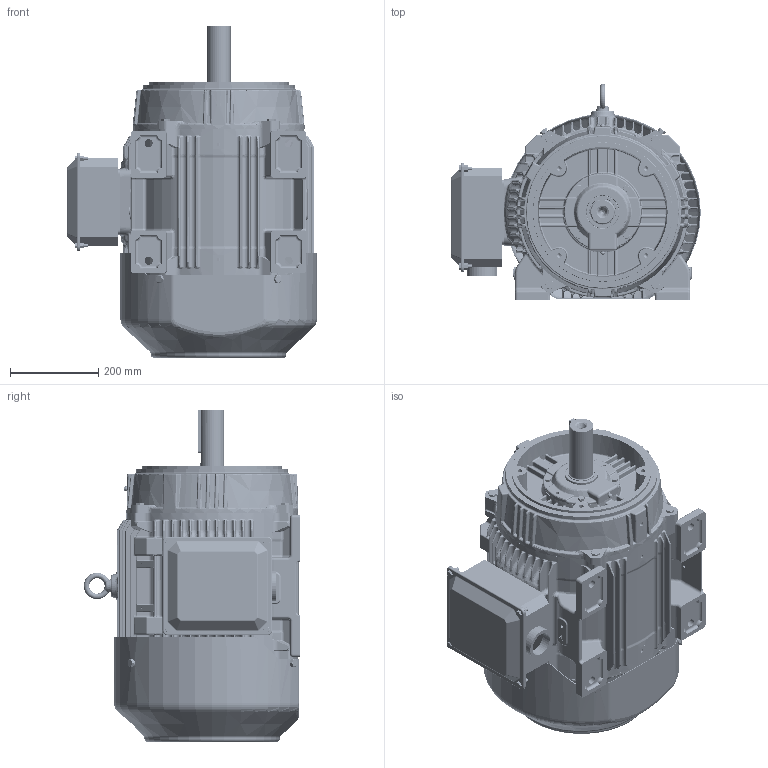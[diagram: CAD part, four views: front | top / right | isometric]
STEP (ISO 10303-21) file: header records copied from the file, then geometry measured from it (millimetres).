
FILE_DESCRIPTION (( 'STEP AP203' ), '1' );
FILE_NAME ('SS312784-324TC_RevB.STEP', '2018-09-10T06:12:13', ( '' ), ( '' ), 'SwSTEP 2.0', 'SolidWorks 2015', '' );
FILE_SCHEMA (( 'CONFIG_CONTROL_DESIGN' ));
Length unit declared in the file: inch
Products named in the file (1): SS312784-324TC_RevB
Bounding box: 567 x 492 x 754.3 mm (x, y, z)
Volume: 15762964.7 mm3; surface area: 4062439.1 mm2
Topology: 59 solids, 59 shells, 9284 faces, 22672 edges, 13201 vertices
Faces by surface type: cylinder 3052, bspline 2475, torus 1263, plane 1259, cone 700, sphere 535
Entity records: 367110 total; most frequent: CARTESIAN_POINT 164899, ORIENTED_EDGE 44402, DIRECTION 40856, EDGE_CURVE 22201, AXIS2_PLACEMENT_3D 17745, VERTEX_POINT 13161, CIRCLE 10935, EDGE_LOOP 10156
